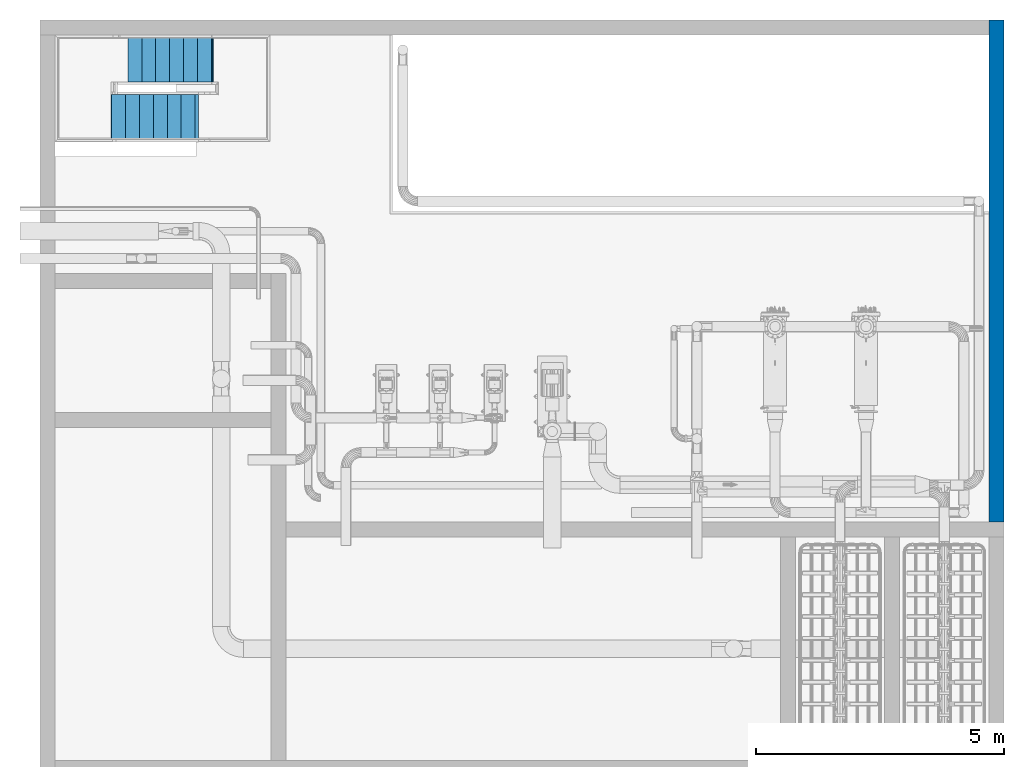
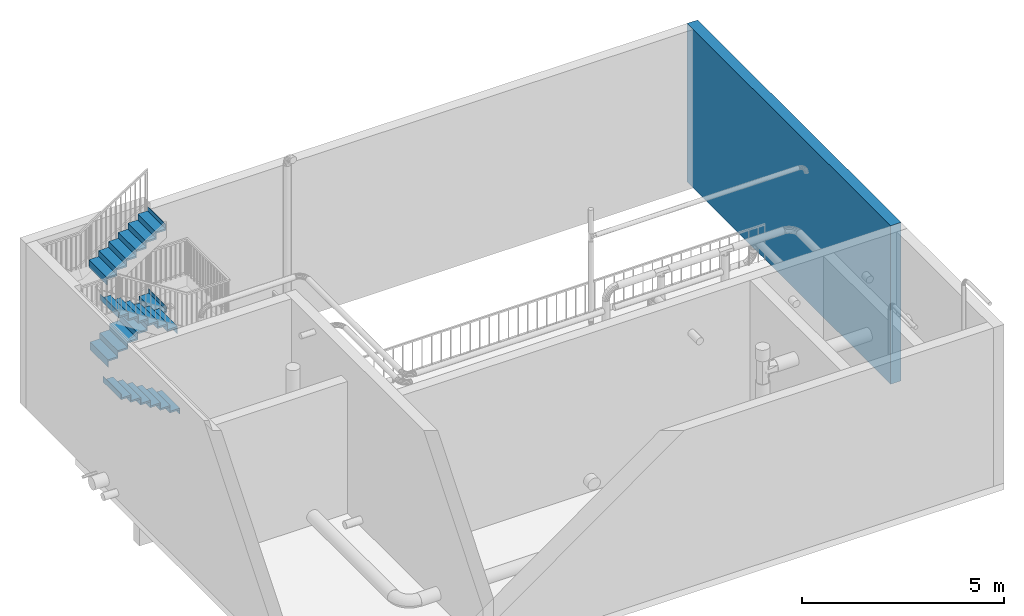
# One storey, part 2 of 28: 4 stair flights, 1 wall, 1 element without a shape of its own.
"""IFC2X3 building model written with IfcOpenShell, lengths in millimetres."""

from ifc_helpers import new_model, entity, si_unit, converted_unit, direction, frame, frame_2d, origin, origin_2d_with_axis, place, context, subcontext, project, spatial, polyline, rectangle, extrude, clip, bounded_halfspace, material, layer, layer_set, layer_usage, type_object, element, aggregate, save


model = new_model("IFC2X3")

# Units and contexts
model_context = context("Model", 3, precision=0.01, world=origin(), true_north=direction((6.123031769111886e-17, 1.0)))
body_context = subcontext(model_context, "Body", "Model", "MODEL_VIEW")
ifc_project = project(units=[si_unit("LENGTHUNIT", "METRE", prefix="MILLI"), converted_unit("PLANEANGLEUNIT", "DEGREE", entity("IfcPlaneAngleMeasure", 0.017453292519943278), si_unit("PLANEANGLEUNIT", "RADIAN"), dimensions=[0, 0, 0, 0, 0, 0, 0]), si_unit("AREAUNIT", "SQUARE_METRE")], contexts=[model_context])

# Site, building, storey
site_placement = place(None, frame((7776.576483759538, 118.3519876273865, 0.0)))
site = spatial("IfcSite", under=ifc_project, at=site_placement, Name="Default", CompositionType="ELEMENT")
building_placement = place(site_placement, origin())
building = spatial("IfcBuilding", under=site, at=building_placement, Name="Bygning (endres i Project Information)", CompositionType="ELEMENT")
storey_placement = place(building_placement, frame((0.0, 0.0, 14000.0)))
storey = spatial("IfcBuildingStorey", under=building, at=storey_placement, Name="Plan U1 - Arbeid", CompositionType="ELEMENT", Elevation=14000.000000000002)

# Wall
ifc_material_1 = material(Name="Default Wall")
ifc_layer = layer(ifc_material_1, 300.0)
ifc_layer_set = layer_set([ifc_layer], Name="Basic Wall:Generic - 300mm")
ifc_layer_usage = layer_usage(ifc_layer_set, "AXIS2", "NEGATIVE", 149.99999999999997)
wall_type = type_object("IfcWallType", Name="Basic Wall:Generic - 300mm", PredefinedType="STANDARD", material=ifc_layer_set)
wall_placement = place(storey_placement, frame((32124.00137486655, 24497.757305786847, 0.0), z_axis=(0.0, 0.0, 1.0), x_axis=(0.0, 1.0, 0.0)))
element("IfcWallStandardCase", 1, at=wall_placement, inside=storey, type_object=wall_type, material=ifc_layer_usage, Name="Basic Wall:Generic - 300mm", ObjectType="Basic Wall:Generic - 300mm", context=body_context, shape_type="Clipping", body=[
    clip(extrude(rectangle(XDim=10100.00000000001, YDim=300.00000000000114, at=frame_2d((5050.000000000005, 4.831690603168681e-13), x_axis=(-1.0, 0.0))), origin(), (0.0, 0.0, 1.0), 4800.0), bounded_halfspace(frame((0.0, -150.0, 4800.0), z_axis=(0.0, 0.0, -1.0), x_axis=(0.0, -1.0, 0.0)), True, frame((0.0, -150.0, 4800.0)), polyline([(0.0, 0.0), (10100.0, 0.0), (10100.0, 300.0), (9800.0, 300.0), (0.0, 300.0), (0.0, 0.0)]))),
])

# Stair, stair flights
type_product = type_object("IfcTypeProduct", Name="Assembled Stair:Stairs 1")
stair_placement = place(storey_placement, origin())
stair = element("IfcStair", 2, at=stair_placement, inside=storey, type_object=type_product, Name="Assembled Stair:Stair", ObjectType="Assembled Stair:Stairs 1", ShapeType="NOTDEFINED")
ifc_material_2 = material(Name="<Unnamed>")
stair_flight_type = type_object("IfcStairFlightType", Name="Non-Monolithic Run:50 mm Tread 10 mm Riser", PredefinedType="STRAIGHT")
stair_flight_1_placement = place(stair_placement, origin())
stair_flight_1 = element("IfcStairFlight", 3, at=stair_flight_1_placement, type_object=stair_flight_type, material=ifc_material_2, Name="Assembled Stair:Stair:2492616 Run 1", ObjectType="Non-Monolithic Run:50 mm Tread 10 mm Riser", NumberOfRiser=7, NumberOfTreads=6, RiserHeight=0.585864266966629, TreadLength=0.9186351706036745, context=body_context, shape_type="SweptSolid", body=[
    extrude(rectangle(XDim=900.0000000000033, YDim=9.999999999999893, at=frame_2d((0.0, -1.0831335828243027e-12), x_axis=(1.0, 0.0))), frame((16064.001374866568, 32647.74293464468, 0.0), z_axis=(0.0, 0.0, 1.0), x_axis=(0.0, -1.0, 0.0)), (0.0, 0.0, 1.0), 128.57142857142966),
    extrude(rectangle(XDim=279.99999999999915, YDim=900.0000000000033, at=frame_2d((-1.0800249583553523e-12, 0.0), x_axis=(1.0, 0.0))), frame((15929.00137486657, 32647.74293464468, 128.57142857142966)), (0.0, 0.0, 1.0), 49.99999999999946),
    extrude(rectangle(XDim=900.0000000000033, YDim=9.999999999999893, at=frame_2d((0.0, -1.0831335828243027e-12), x_axis=(1.0, 0.0))), frame((15784.00137486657, 32647.74293464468, 128.5714285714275), z_axis=(0.0, 0.0, 1.0), x_axis=(0.0, -1.0, 0.0)), (0.0, 0.0, 1.0), 178.57142857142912),
    extrude(rectangle(XDim=280.0000000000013, YDim=900.0000000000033, at=origin_2d_with_axis()), frame((15649.001374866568, 32647.74293464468, 307.1428571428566)), (0.0, 0.0, 1.0), 49.99999999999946),
    extrude(rectangle(XDim=900.0000000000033, YDim=9.999999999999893, at=frame_2d((0.0, -1.0831335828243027e-12), x_axis=(1.0, 0.0))), frame((15504.001374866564, 32647.742934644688, 307.1428571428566), z_axis=(0.0, 0.0, 1.0), x_axis=(0.0, -1.0, 0.0)), (0.0, 0.0, 1.0), 178.57142857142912),
    extrude(rectangle(XDim=280.0000000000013, YDim=900.0000000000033, at=origin_2d_with_axis()), frame((15369.001374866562, 32647.742934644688, 485.7142857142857)), (0.0, 0.0, 1.0), 49.99999999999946),
    extrude(rectangle(XDim=900.0000000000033, YDim=9.999999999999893, at=frame_2d((0.0, -1.0831335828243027e-12), x_axis=(1.0, 0.0))), frame((15224.00137486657, 32647.742934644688, 485.7142857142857), z_axis=(0.0, 0.0, 1.0), x_axis=(0.0, -1.0, 0.0)), (0.0, 0.0, 1.0), 178.57142857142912),
    extrude(rectangle(XDim=280.0000000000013, YDim=900.0000000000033, at=frame_2d((2.1600499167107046e-12, 0.0), x_axis=(1.0, 0.0))), frame((15089.001374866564, 32647.742934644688, 664.2857142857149)), (0.0, 0.0, 1.0), 49.99999999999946),
    extrude(rectangle(XDim=900.0000000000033, YDim=9.999999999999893, at=frame_2d((0.0, -1.0831335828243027e-12), x_axis=(1.0, 0.0))), frame((14944.00137486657, 32647.742934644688, 664.2857142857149), z_axis=(0.0, 0.0, 1.0), x_axis=(0.0, -1.0, 0.0)), (0.0, 0.0, 1.0), 178.57142857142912),
    extrude(rectangle(XDim=280.0000000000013, YDim=900.0000000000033, at=origin_2d_with_axis()), frame((14809.001374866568, 32647.742934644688, 842.857142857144)), (0.0, 0.0, 1.0), 49.99999999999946),
    extrude(rectangle(XDim=900.0000000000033, YDim=9.999999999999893, at=frame_2d((0.0, -1.0831335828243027e-12), x_axis=(1.0, 0.0))), frame((14664.001374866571, 32647.742934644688, 842.8571428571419), z_axis=(0.0, 0.0, 1.0), x_axis=(0.0, -1.0, 0.0)), (0.0, 0.0, 1.0), 178.57142857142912),
    extrude(rectangle(XDim=900.0000000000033, YDim=9.999999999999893, at=frame_2d((0.0, -1.0831335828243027e-12), x_axis=(1.0, 0.0))), frame((14384.00137486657, 32647.742934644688, 1021.4285714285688), z_axis=(0.0, 0.0, 1.0), x_axis=(0.0, -1.0, 0.0)), (0.0, 0.0, 1.0), 178.57142857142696),
    extrude(rectangle(XDim=280.0000000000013, YDim=900.0000000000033, at=origin_2d_with_axis()), frame((14529.00137486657, 32647.742934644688, 1021.428571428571)), (0.0, 0.0, 1.0), 49.99999999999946),
])
stair_flight_2_placement = place(stair_placement, origin())
stair_flight_2 = element("IfcStairFlight", 4, at=stair_flight_2_placement, type_object=stair_flight_type, material=ifc_material_2, Name="Assembled Stair:Stair:2492616 Run 2", ObjectType="Non-Monolithic Run:50 mm Tread 10 mm Riser", NumberOfRiser=7, NumberOfTreads=6, RiserHeight=0.585864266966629, TreadLength=0.9186351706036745, context=body_context, shape_type="SweptSolid", body=[
    extrude(rectangle(XDim=900.0000000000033, YDim=9.999999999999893, at=frame_2d((0.0, -1.0831335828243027e-12), x_axis=(1.0, 0.0))), frame((14679.001374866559, 33797.757305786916, 1200.0), z_axis=(0.0, 0.0, 1.0), x_axis=(0.0, 1.0, 0.0)), (0.0, 0.0, 1.0), 178.57142857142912),
    extrude(rectangle(XDim=279.99999999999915, YDim=900.0000000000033, at=frame_2d((-1.0800249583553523e-12, 0.0), x_axis=(1.0, 0.0))), frame((14814.001374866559, 33797.757305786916, 1378.5714285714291), z_axis=(0.0, 0.0, 1.0), x_axis=(-1.0, 0.0, 0.0)), (0.0, 0.0, 1.0), 49.99999999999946),
    extrude(rectangle(XDim=900.0000000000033, YDim=9.999999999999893, at=frame_2d((0.0, 1.0831335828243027e-12), x_axis=(1.0, 0.0))), frame((14959.00137486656, 33797.757305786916, 1378.571428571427), z_axis=(0.0, 0.0, 1.0), x_axis=(0.0, 1.0, 0.0)), (0.0, 0.0, 1.0), 178.57142857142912),
    extrude(rectangle(XDim=280.0000000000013, YDim=900.0000000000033, at=origin_2d_with_axis()), frame((15094.001374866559, 33797.757305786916, 1557.1428571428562), z_axis=(0.0, 0.0, 1.0), x_axis=(-1.0, 0.0, 0.0)), (0.0, 0.0, 1.0), 49.99999999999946),
    extrude(rectangle(XDim=900.0000000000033, YDim=9.999999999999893, at=frame_2d((0.0, 1.0831335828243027e-12), x_axis=(1.0, 0.0))), frame((15239.001374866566, 33797.75730578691, 1557.1428571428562), z_axis=(0.0, 0.0, 1.0), x_axis=(0.0, 1.0, 0.0)), (0.0, 0.0, 1.0), 178.57142857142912),
    extrude(rectangle(XDim=280.0000000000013, YDim=900.0000000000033, at=origin_2d_with_axis()), frame((15374.001374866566, 33797.75730578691, 1735.7142857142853), z_axis=(0.0, 0.0, 1.0), x_axis=(-1.0, 0.0, 0.0)), (0.0, 0.0, 1.0), 49.99999999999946),
    extrude(rectangle(XDim=900.0000000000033, YDim=9.999999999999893, at=frame_2d((0.0, -1.0831335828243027e-12), x_axis=(1.0, 0.0))), frame((15519.001374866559, 33797.75730578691, 1735.7142857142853), z_axis=(0.0, 0.0, 1.0), x_axis=(0.0, 1.0, 0.0)), (0.0, 0.0, 1.0), 178.57142857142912),
    extrude(rectangle(XDim=280.0000000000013, YDim=900.0000000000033, at=origin_2d_with_axis()), frame((15654.00137486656, 33797.75730578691, 1914.2857142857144), z_axis=(0.0, 0.0, 1.0), x_axis=(-1.0, 0.0, 0.0)), (0.0, 0.0, 1.0), 49.99999999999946),
    extrude(rectangle(XDim=900.0000000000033, YDim=9.999999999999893, at=frame_2d((0.0, 1.0831335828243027e-12), x_axis=(1.0, 0.0))), frame((15799.001374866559, 33797.75730578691, 1914.2857142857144), z_axis=(0.0, 0.0, 1.0), x_axis=(0.0, 1.0, 0.0)), (0.0, 0.0, 1.0), 178.57142857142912),
    extrude(rectangle(XDim=280.0000000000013, YDim=900.0000000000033, at=origin_2d_with_axis()), frame((15934.001374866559, 33797.75730578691, 2092.8571428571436), z_axis=(0.0, 0.0, 1.0), x_axis=(-1.0, 0.0, 0.0)), (0.0, 0.0, 1.0), 49.99999999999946),
    extrude(rectangle(XDim=900.0000000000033, YDim=9.999999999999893, at=frame_2d((0.0, 1.0831335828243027e-12), x_axis=(1.0, 0.0))), frame((16079.001374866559, 33797.75730578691, 2092.8571428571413), z_axis=(0.0, 0.0, 1.0), x_axis=(0.0, 1.0, 0.0)), (0.0, 0.0, 1.0), 178.57142857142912),
    extrude(rectangle(XDim=900.0000000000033, YDim=9.999999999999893, at=frame_2d((0.0, -1.0831335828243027e-12), x_axis=(1.0, 0.0))), frame((16359.001374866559, 33797.75730578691, 2271.4285714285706), z_axis=(0.0, 0.0, 1.0), x_axis=(0.0, 1.0, 0.0)), (0.0, 0.0, 1.0), 178.57142857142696),
    extrude(rectangle(XDim=280.0000000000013, YDim=900.0000000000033, at=frame_2d((-2.1600499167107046e-12, 0.0), x_axis=(1.0, 0.0))), frame((16214.001374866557, 33797.75730578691, 2271.4285714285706), z_axis=(0.0, 0.0, 1.0), x_axis=(-1.0, 0.0, 0.0)), (0.0, 0.0, 1.0), 49.99999999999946),
])
stair_flight_3_placement = place(stair_placement, origin())
stair_flight_3 = element("IfcStairFlight", 5, at=stair_flight_3_placement, type_object=stair_flight_type, material=ifc_material_2, Name="Assembled Stair:Stair:2492616 Run 3", ObjectType="Non-Monolithic Run:50 mm Tread 10 mm Riser", NumberOfRiser=7, NumberOfTreads=6, RiserHeight=0.585864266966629, TreadLength=0.9186351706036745, context=body_context, shape_type="SweptSolid", body=[
    extrude(rectangle(XDim=900.0000000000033, YDim=9.999999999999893, at=frame_2d((0.0, 1.0831335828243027e-12), x_axis=(1.0, 0.0))), frame((15993.079492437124, 32647.963713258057, 2450.0), z_axis=(0.0, 0.0, 1.0), x_axis=(0.0, -1.0, 0.0)), (0.0, 0.0, 1.0), 178.57142857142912),
    extrude(rectangle(XDim=279.99999999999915, YDim=900.0000000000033, at=frame_2d((1.0800249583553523e-12, 0.0), x_axis=(1.0, 0.0))), frame((15858.079492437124, 32647.963713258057, 2628.571428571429)), (0.0, 0.0, 1.0), 49.99999999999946),
    extrude(rectangle(XDim=900.0000000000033, YDim=9.999999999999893, at=frame_2d((0.0, -1.0831335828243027e-12), x_axis=(1.0, 0.0))), frame((15713.079492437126, 32647.963713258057, 2628.5714285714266), z_axis=(0.0, 0.0, 1.0), x_axis=(0.0, -1.0, 0.0)), (0.0, 0.0, 1.0), 178.57142857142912),
    extrude(rectangle(XDim=280.0000000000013, YDim=900.0000000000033, at=frame_2d((2.1600499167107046e-12, 0.0), x_axis=(1.0, 0.0))), frame((15578.079492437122, 32647.963713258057, 2807.1428571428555)), (0.0, 0.0, 1.0), 49.99999999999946),
    extrude(rectangle(XDim=900.0000000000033, YDim=9.999999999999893, at=frame_2d((0.0, -1.0831335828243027e-12), x_axis=(1.0, 0.0))), frame((15433.07949243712, 32647.96371325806, 2807.1428571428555), z_axis=(0.0, 0.0, 1.0), x_axis=(0.0, -1.0, 0.0)), (0.0, 0.0, 1.0), 178.57142857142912),
    extrude(rectangle(XDim=280.0000000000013, YDim=900.0000000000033, at=frame_2d((2.1600499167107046e-12, 0.0), x_axis=(1.0, 0.0))), frame((15298.079492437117, 32647.96371325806, 2985.714285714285)), (0.0, 0.0, 1.0), 49.99999999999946),
    extrude(rectangle(XDim=900.0000000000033, YDim=9.999999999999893, at=frame_2d((0.0, 1.0831335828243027e-12), x_axis=(1.0, 0.0))), frame((15153.079492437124, 32647.96371325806, 2985.714285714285), z_axis=(0.0, 0.0, 1.0), x_axis=(0.0, -1.0, 0.0)), (0.0, 0.0, 1.0), 178.57142857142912),
    extrude(rectangle(XDim=280.0000000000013, YDim=900.0000000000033, at=origin_2d_with_axis()), frame((15018.079492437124, 32647.96371325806, 3164.2857142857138)), (0.0, 0.0, 1.0), 49.99999999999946),
    extrude(rectangle(XDim=900.0000000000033, YDim=9.999999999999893, at=frame_2d((0.0, -1.0831335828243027e-12), x_axis=(1.0, 0.0))), frame((14873.079492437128, 32647.96371325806, 3164.2857142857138), z_axis=(0.0, 0.0, 1.0), x_axis=(0.0, -1.0, 0.0)), (0.0, 0.0, 1.0), 178.57142857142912),
    extrude(rectangle(XDim=280.0000000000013, YDim=900.0000000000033, at=frame_2d((2.1600499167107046e-12, 0.0), x_axis=(1.0, 0.0))), frame((14738.079492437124, 32647.96371325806, 3342.857142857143)), (0.0, 0.0, 1.0), 49.99999999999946),
    extrude(rectangle(XDim=900.0000000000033, YDim=9.999999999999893, at=frame_2d((0.0, -1.0831335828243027e-12), x_axis=(1.0, 0.0))), frame((14593.079492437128, 32647.96371325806, 3342.857142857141), z_axis=(0.0, 0.0, 1.0), x_axis=(0.0, -1.0, 0.0)), (0.0, 0.0, 1.0), 178.57142857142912),
    extrude(rectangle(XDim=900.0000000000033, YDim=9.999999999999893, at=frame_2d((0.0, 1.0831335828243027e-12), x_axis=(1.0, 0.0))), frame((14313.079492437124, 32647.96371325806, 3521.42857142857), z_axis=(0.0, 0.0, 1.0), x_axis=(0.0, -1.0, 0.0)), (0.0, 0.0, 1.0), 178.57142857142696),
    extrude(rectangle(XDim=280.0000000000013, YDim=900.0000000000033, at=origin_2d_with_axis()), frame((14458.079492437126, 32647.96371325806, 3521.42857142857)), (0.0, 0.0, 1.0), 49.99999999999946),
])
stair_flight_4_placement = place(stair_placement, origin())
stair_flight_4 = element("IfcStairFlight", 6, at=stair_flight_4_placement, type_object=stair_flight_type, material=ifc_material_2, Name="Assembled Stair:Stair:2492616 Run 4", ObjectType="Non-Monolithic Run:50 mm Tread 10 mm Riser", NumberOfRiser=7, NumberOfTreads=6, RiserHeight=0.585864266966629, TreadLength=0.9186351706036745, context=body_context, shape_type="SweptSolid", body=[
    extrude(rectangle(XDim=900.0000000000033, YDim=9.999999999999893, at=frame_2d((0.0, -1.0831335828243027e-12), x_axis=(1.0, 0.0))), frame((14649.001374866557, 33797.757305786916, 3700.0), z_axis=(0.0, 0.0, 1.0), x_axis=(0.0, 1.0, 0.0)), (0.0, 0.0, 1.0), 178.57142857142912),
    extrude(rectangle(XDim=279.99999999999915, YDim=900.0000000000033, at=frame_2d((1.0800249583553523e-12, 0.0), x_axis=(1.0, 0.0))), frame((14784.001374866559, 33797.757305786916, 3878.5714285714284), z_axis=(0.0, 0.0, 1.0), x_axis=(-1.0, 0.0, 0.0)), (0.0, 0.0, 1.0), 49.99999999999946),
    extrude(rectangle(XDim=900.0000000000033, YDim=9.999999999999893, at=frame_2d((0.0, 1.0831335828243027e-12), x_axis=(1.0, 0.0))), frame((14929.001374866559, 33797.757305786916, 3878.571428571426), z_axis=(0.0, 0.0, 1.0), x_axis=(0.0, 1.0, 0.0)), (0.0, 0.0, 1.0), 178.57142857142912),
    extrude(rectangle(XDim=280.0000000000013, YDim=900.0000000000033, at=origin_2d_with_axis()), frame((15064.001374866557, 33797.757305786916, 4057.142857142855), z_axis=(0.0, 0.0, 1.0), x_axis=(-1.0, 0.0, 0.0)), (0.0, 0.0, 1.0), 49.99999999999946),
    extrude(rectangle(XDim=900.0000000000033, YDim=9.999999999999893, at=frame_2d((0.0, 1.0831335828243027e-12), x_axis=(1.0, 0.0))), frame((15209.001374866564, 33797.75730578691, 4057.142857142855), z_axis=(0.0, 0.0, 1.0), x_axis=(0.0, 1.0, 0.0)), (0.0, 0.0, 1.0), 178.57142857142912),
    extrude(rectangle(XDim=280.0000000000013, YDim=900.0000000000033, at=origin_2d_with_axis()), frame((15344.001374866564, 33797.75730578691, 4235.714285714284), z_axis=(0.0, 0.0, 1.0), x_axis=(-1.0, 0.0, 0.0)), (0.0, 0.0, 1.0), 49.99999999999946),
    extrude(rectangle(XDim=900.0000000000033, YDim=9.999999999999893, at=frame_2d((0.0, -1.0831335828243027e-12), x_axis=(1.0, 0.0))), frame((15489.001374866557, 33797.75730578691, 4235.714285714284), z_axis=(0.0, 0.0, 1.0), x_axis=(0.0, 1.0, 0.0)), (0.0, 0.0, 1.0), 178.57142857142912),
    extrude(rectangle(XDim=280.0000000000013, YDim=900.0000000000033, at=origin_2d_with_axis()), frame((15624.001374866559, 33797.75730578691, 4414.285714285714), z_axis=(0.0, 0.0, 1.0), x_axis=(-1.0, 0.0, 0.0)), (0.0, 0.0, 1.0), 49.99999999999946),
    extrude(rectangle(XDim=900.0000000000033, YDim=9.999999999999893, at=frame_2d((0.0, 1.0831335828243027e-12), x_axis=(1.0, 0.0))), frame((15769.001374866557, 33797.75730578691, 4414.285714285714), z_axis=(0.0, 0.0, 1.0), x_axis=(0.0, 1.0, 0.0)), (0.0, 0.0, 1.0), 178.57142857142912),
    extrude(rectangle(XDim=280.0000000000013, YDim=900.0000000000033, at=origin_2d_with_axis()), frame((15904.001374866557, 33797.75730578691, 4592.857142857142), z_axis=(0.0, 0.0, 1.0), x_axis=(-1.0, 0.0, 0.0)), (0.0, 0.0, 1.0), 49.99999999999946),
    extrude(rectangle(XDim=900.0000000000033, YDim=9.999999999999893, at=frame_2d((0.0, -1.0831335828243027e-12), x_axis=(1.0, 0.0))), frame((16049.001374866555, 33797.75730578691, 4592.85714285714), z_axis=(0.0, 0.0, 1.0), x_axis=(0.0, 1.0, 0.0)), (0.0, 0.0, 1.0), 178.57142857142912),
    extrude(rectangle(XDim=900.0000000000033, YDim=9.999999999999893, at=frame_2d((0.0, -1.0831335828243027e-12), x_axis=(1.0, 0.0))), frame((16329.001374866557, 33797.75730578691, 4771.42857142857), z_axis=(0.0, 0.0, 1.0), x_axis=(0.0, 1.0, 0.0)), (0.0, 0.0, 1.0), 178.57142857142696),
    extrude(rectangle(XDim=280.0000000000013, YDim=900.0000000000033, at=frame_2d((2.1600499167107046e-12, 0.0), x_axis=(1.0, 0.0))), frame((16184.001374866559, 33797.75730578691, 4771.42857142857), z_axis=(0.0, 0.0, 1.0), x_axis=(-1.0, 0.0, 0.0)), (0.0, 0.0, 1.0), 49.99999999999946),
])
aggregate(stair, [stair_flight_1, stair_flight_2, stair_flight_3, stair_flight_4])

save(model, "model.ifc")
